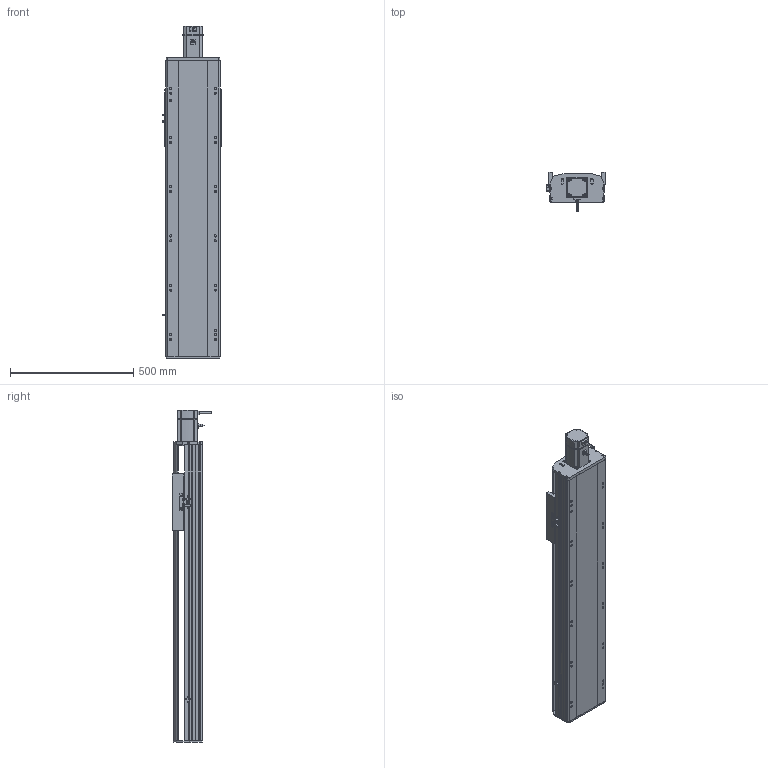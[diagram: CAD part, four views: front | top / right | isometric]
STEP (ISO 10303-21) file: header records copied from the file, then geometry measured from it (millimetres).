
FILE_DESCRIPTION (( 'STEP AP214' ), '1' );
FILE_NAME ('RTH22-XX-800-E-M75-C4.STEP', '2025-10-24T10:45:57', ( 'Microsoft' ), ( 'Microsoft' ), 'SwSTEP 2.0', 'SolidWorks 2018', '' );
FILE_SCHEMA (( 'AUTOMOTIVE_DESIGN' ));
Length unit declared in the file: millimetre
Products named in the file (9): N_RTH22-GY-013外置感应片^RTH22-XX-XX-E-M75-C4; RTH22-XX-800-E-M75-C4; N_750W萇儂^RTH22-XX-XX-E-M75-C4; N_OMRON EE-SX672 传感器^RTH22-XX-XX-E-M75-C4; N_RTH22-GY-001耜裔^RTH22-XX-XX-E-M75-C4; N_RTH22-E-008萇儂啣^RTH22-XX-XX-E-M75-C4; N_RTH22-E-004-SFS25賑釱^RTH22-XX-XX-E-M75-C4; N_RTH22-E-007奻裔^RTH22-XX-XX-E-M75-C4; N_RTH22-E-011菁釱^RTH22-XX-XX-E-M75-C4
Assembly tree (10 placements, depth 2):
  RTH22-XX-800-E-M75-C4
    N_RTH22-E-011菁釱^RTH22-XX-XX-E-M75-C4
    N_RTH22-GY-001耜裔^RTH22-XX-XX-E-M75-C4
    N_RTH22-E-008萇儂啣^RTH22-XX-XX-E-M75-C4
    N_RTH22-E-007奻裔^RTH22-XX-XX-E-M75-C4
    N_RTH22-GY-013外置感应片^RTH22-XX-XX-E-M75-C4
    N_RTH22-E-004-SFS25賑釱^RTH22-XX-XX-E-M75-C4
    N_750W萇儂^RTH22-XX-XX-E-M75-C4
    N_OMRON EE-SX672 传感器^RTH22-XX-XX-E-M75-C4  x3
Bounding box: 238.5 x 160.7 x 1349 mm (x, y, z)
Volume: 17092080.5 mm3; surface area: 1777313.5 mm2
Topology: 10 solids, 10 shells, 1523 faces, 4174 edges, 2699 vertices
Faces by surface type: plane 754, cylinder 436, bspline 279, cone 54
Entity records: 37889 total; most frequent: CARTESIAN_POINT 11913, ORIENTED_EDGE 5332, DIRECTION 4992, EDGE_CURVE 2666, VERTEX_POINT 1735, AXIS2_PLACEMENT_3D 1674, VECTOR 1644, LINE 1644
